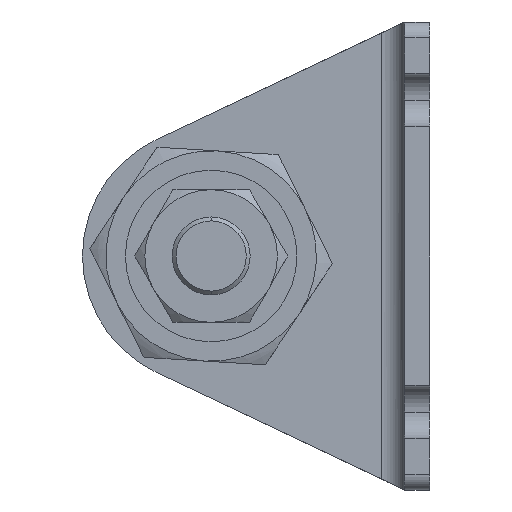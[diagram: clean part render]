
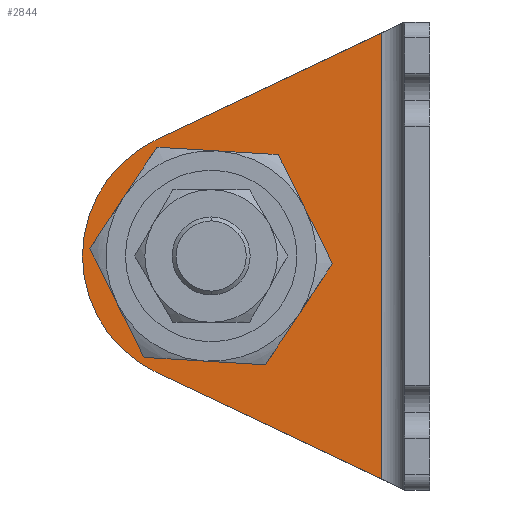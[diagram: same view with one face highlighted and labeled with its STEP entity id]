
A CAD part, left-side view. The second image highlights one B-rep face of the part: STEP entity #2844.
In plain terms, the highlighted planar face has unit normal (-1, 0, 0) as drawn and (1, 0, 0) by its records, which use the part's own axes.
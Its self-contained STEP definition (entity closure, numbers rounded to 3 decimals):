
#30 = VERTEX_POINT ( 'NONE', #2578 ) ;
#109 = FACE_BOUND ( 'NONE', #3236, .T. ) ;
#143 = EDGE_CURVE ( 'NONE', #2121, #1447, #2074, .T. ) ;
#173 = DIRECTION ( 'NONE',  ( 0., 1., 0. ) ) ;
#220 = CARTESIAN_POINT ( 'NONE',  ( 3.2, 28., -30. ) ) ;
#350 = DIRECTION ( 'NONE',  ( 1., 0., 0. ) ) ;
#387 = CARTESIAN_POINT ( 'NONE',  ( 3.2, 26.408, -10.99 ) ) ;
#424 = DIRECTION ( 'NONE',  ( 0., 1., 0. ) ) ;
#455 = DIRECTION ( 'NONE',  ( 0., 0., -1. ) ) ;
#746 = ORIENTED_EDGE ( 'NONE', *, *, #143, .T. ) ;
#1035 = ORIENTED_EDGE ( 'NONE', *, *, #4037, .T. ) ;
#1109 = DIRECTION ( 'NONE',  ( 0., 1., 0. ) ) ;
#1127 = CARTESIAN_POINT ( 'NONE',  ( 3.2, 35.062, -15.087 ) ) ;
#1149 = DIRECTION ( 'NONE',  ( 1., 0., 0. ) ) ;
#1307 = CARTESIAN_POINT ( 'NONE',  ( 3.2, 3.2, -60. ) ) ;
#1407 = CARTESIAN_POINT ( 'NONE',  ( 3.2, 6.2, -1.421 ) ) ;
#1418 = LINE ( 'NONE', #387, #2246 ) ;
#1441 = LINE ( 'NONE', #1307, #2016 ) ;
#1447 = VERTEX_POINT ( 'NONE', #1127 ) ;
#1529 = ORIENTED_EDGE ( 'NONE', *, *, #4117, .T. ) ;
#1625 = ORIENTED_EDGE ( 'NONE', *, *, #3088, .F. ) ;
#1776 = VECTOR ( 'NONE', #455, 1000. ) ;
#1826 = EDGE_CURVE ( 'NONE', #2823, #3434, #2296, .T. ) ;
#1932 = CARTESIAN_POINT ( 'NONE',  ( 3.2, 3.2, -60. ) ) ;
#1973 = DIRECTION ( 'NONE',  ( 1., 0., 0. ) ) ;
#2001 = AXIS2_PLACEMENT_3D ( 'NONE', #3805, #1149, #3274 ) ;
#2016 = VECTOR ( 'NONE', #3416, 1000. ) ;
#2074 = CIRCLE ( 'NONE', #3247, 16.5 ) ;
#2121 = VERTEX_POINT ( 'NONE', #2170 ) ;
#2151 = DIRECTION ( 'NONE',  ( 0., 0.904, -0.428 ) ) ;
#2170 = CARTESIAN_POINT ( 'NONE',  ( 3.2, 44.5, -30. ) ) ;
#2246 = VECTOR ( 'NONE', #2151, 1000. ) ;
#2286 = DIRECTION ( 'NONE',  ( 1., 0., 0. ) ) ;
#2296 = LINE ( 'NONE', #3002, #1776 ) ;
#2325 = CARTESIAN_POINT ( 'NONE',  ( 3.2, 28., -30. ) ) ;
#2462 = DIRECTION ( 'NONE',  ( 0., 1., 0. ) ) ;
#2522 = CARTESIAN_POINT ( 'NONE',  ( 3.2, 6.2, -58.579 ) ) ;
#2578 = CARTESIAN_POINT ( 'NONE',  ( 3.2, 16.5, -30. ) ) ;
#2680 = CARTESIAN_POINT ( 'NONE',  ( 3.2, 28., -30. ) ) ;
#2681 = ORIENTED_EDGE ( 'NONE', *, *, #3780, .F. ) ;
#2745 = DIRECTION ( 'NONE',  ( 1., 0., 0. ) ) ;
#2795 = AXIS2_PLACEMENT_3D ( 'NONE', #2325, #2745, #2462 ) ;
#2823 = VERTEX_POINT ( 'NONE', #1407 ) ;
#2844 = ADVANCED_FACE ( 'NONE', ( #3519, #109 ), #4059, .T. ) ;
#2919 = VERTEX_POINT ( 'NONE', #4068 ) ;
#3002 = CARTESIAN_POINT ( 'NONE',  ( 3.2, 6.2, -60. ) ) ;
#3080 = EDGE_CURVE ( 'NONE', #2823, #1447, #1418, .T. ) ;
#3088 = EDGE_CURVE ( 'NONE', #30, #3240, #3404, .T. ) ;
#3157 = CARTESIAN_POINT ( 'NONE',  ( 3.2, 39.5, -30. ) ) ;
#3218 = AXIS2_PLACEMENT_3D ( 'NONE', #2680, #350, #1109 ) ;
#3236 = EDGE_LOOP ( 'NONE', ( #2681, #1625 ) ) ;
#3240 = VERTEX_POINT ( 'NONE', #3157 ) ;
#3247 = AXIS2_PLACEMENT_3D ( 'NONE', #220, #1973, #424 ) ;
#3274 = DIRECTION ( 'NONE',  ( 0., 1., 0. ) ) ;
#3404 = CIRCLE ( 'NONE', #2001, 11.5 ) ;
#3416 = DIRECTION ( 'NONE',  ( 0., 0.904, 0.428 ) ) ;
#3434 = VERTEX_POINT ( 'NONE', #2522 ) ;
#3519 = FACE_OUTER_BOUND ( 'NONE', #3806, .T. ) ;
#3544 = CIRCLE ( 'NONE', #2795, 16.5 ) ;
#3717 = AXIS2_PLACEMENT_3D ( 'NONE', #1932, #2286, #173 ) ;
#3780 = EDGE_CURVE ( 'NONE', #3240, #30, #3961, .T. ) ;
#3805 = CARTESIAN_POINT ( 'NONE',  ( 3.2, 28., -30. ) ) ;
#3806 = EDGE_LOOP ( 'NONE', ( #3962, #4033, #1035, #1529, #746 ) ) ;
#3961 = CIRCLE ( 'NONE', #3218, 11.5 ) ;
#3962 = ORIENTED_EDGE ( 'NONE', *, *, #3080, .F. ) ;
#4033 = ORIENTED_EDGE ( 'NONE', *, *, #1826, .T. ) ;
#4037 = EDGE_CURVE ( 'NONE', #3434, #2919, #1441, .T. ) ;
#4059 = PLANE ( 'NONE',  #3717 ) ;
#4068 = CARTESIAN_POINT ( 'NONE',  ( 3.2, 35.062, -44.913 ) ) ;
#4117 = EDGE_CURVE ( 'NONE', #2919, #2121, #3544, .T. ) ;
